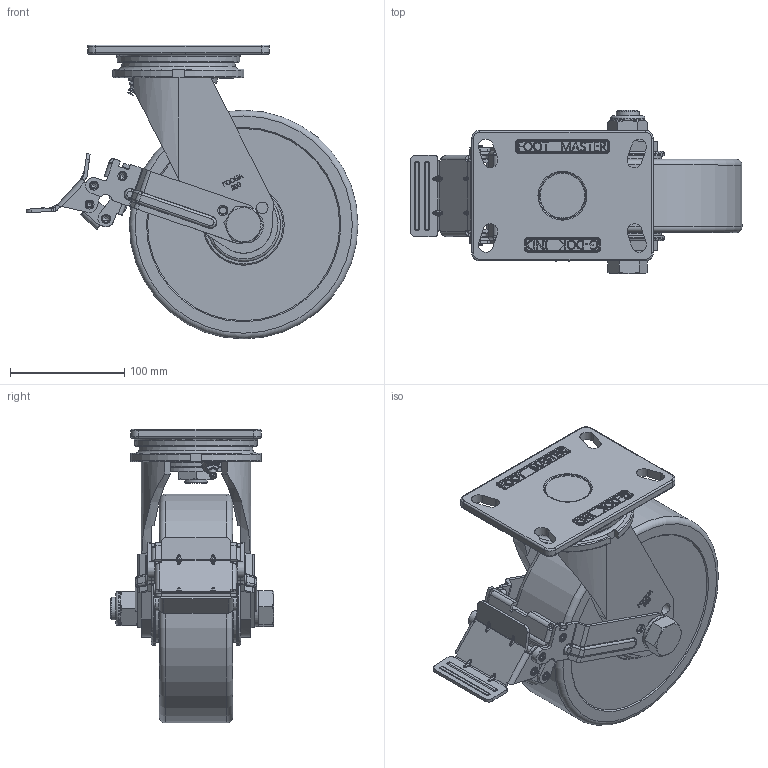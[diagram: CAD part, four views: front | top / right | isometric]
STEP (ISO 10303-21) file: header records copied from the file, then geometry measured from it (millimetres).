
FILE_DESCRIPTION(/* description */ (''),/* implementation_level */ '2;1');
FILE_NAME(/* name */ '\\192.168.10.38\지덕공유\1.기술연구소\손동원\GF-SERIES\3D\GF-200-BSF-MCD-FRN.stp',/* time_stamp */ '2023-07-25T14:04:09+09:00',/* author */ ('admin'),/* organization */ (''),/* preprocessor_version */ 'ST-DEVELOPER v18.1',/* originating_system */ 'Autodesk Inventor 2021',/* authorisation */ '');
FILE_SCHEMA (('AUTOMOTIVE_DESIGN { 1 0 10303 214 3 1 1 }'));
Products named in the file (1): GF-200-BSF-MCD-FRN
Bounding box: 290.33 x 143 x 257 mm (x, y, z)
Volume: 2654405.7 mm3; surface area: 265607.4 mm2
Topology: 4 solids, 4 shells, 1831 faces, 4795 edges, 3044 vertices
Faces by surface type: plane 622, bspline 555, cylinder 449, torus 127, cone 62, sphere 16
Full cylindrical faces by diameter (mm): 4 x4, 6 x5, 6.2 x18, 7 x2, 8 x8, 10 x2, 20 x2, 30 x1, 33 x2, 59 x3, 64.519 x2, 200 x1
Entity records: 67309 total; most frequent: CARTESIAN_POINT 25006, ORIENTED_EDGE 9534, DIRECTION 7655, EDGE_CURVE 4767, VERTEX_POINT 3046, AXIS2_PLACEMENT_3D 2679, LINE 2297, VECTOR 2297
